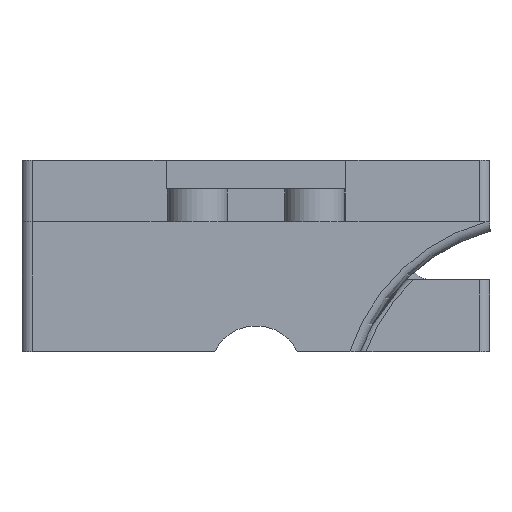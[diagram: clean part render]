
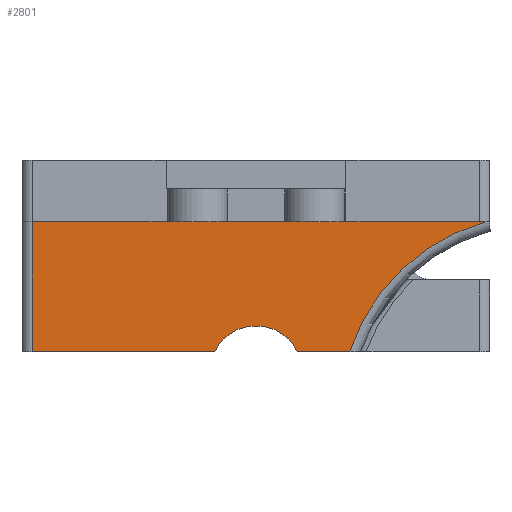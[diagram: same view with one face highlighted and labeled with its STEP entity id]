
A CAD part, front view. The second image highlights one B-rep face of the part: STEP entity #2801.
In plain terms, the highlighted planar face has unit normal (0, -1, 0).
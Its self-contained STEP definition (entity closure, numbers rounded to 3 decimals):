
#76 = CARTESIAN_POINT ( 'NONE',  ( 0., -136.688, -1.984 ) ) ;
#142 = VERTEX_POINT ( 'NONE', #2056 ) ;
#214 = CIRCLE ( 'NONE', #619, 4.5 ) ;
#240 = VERTEX_POINT ( 'NONE', #1787 ) ;
#320 = VERTEX_POINT ( 'NONE', #1855 ) ;
#324 = DIRECTION ( 'NONE',  ( 0., 1., 0. ) ) ;
#399 = EDGE_CURVE ( 'NONE', #240, #3165, #1597, .T. ) ;
#471 = DIRECTION ( 'NONE',  ( -1., 0., 0. ) ) ;
#597 = LINE ( 'NONE', #1646, #3592 ) ;
#619 = AXIS2_PLACEMENT_3D ( 'NONE', #76, #2920, #939 ) ;
#664 = LINE ( 'NONE', #2077, #1776 ) ;
#682 = CARTESIAN_POINT ( 'NONE',  ( 4.039, -136.688, 0. ) ) ;
#707 = EDGE_CURVE ( 'NONE', #320, #1121, #597, .T. ) ;
#739 = CIRCLE ( 'NONE', #3743, 19.5 ) ;
#939 = DIRECTION ( 'NONE',  ( -1., 0., 0. ) ) ;
#995 = CARTESIAN_POINT ( 'NONE',  ( -21.9, -136.688, 12.716 ) ) ;
#1029 = EDGE_CURVE ( 'NONE', #240, #320, #739, .T. ) ;
#1097 = CARTESIAN_POINT ( 'NONE',  ( 43.3, -136.688, 12.716 ) ) ;
#1121 = VERTEX_POINT ( 'NONE', #995 ) ;
#1152 = CARTESIAN_POINT ( 'NONE',  ( -21.9, -136.688, 12.716 ) ) ;
#1359 = DIRECTION ( 'NONE',  ( 0., 1., 0. ) ) ;
#1597 = LINE ( 'NONE', #3641, #2612 ) ;
#1646 = CARTESIAN_POINT ( 'NONE',  ( 43.3, -136.688, 12.716 ) ) ;
#1660 = ORIENTED_EDGE ( 'NONE', *, *, #707, .T. ) ;
#1731 = DIRECTION ( 'NONE',  ( 0., 0., -1. ) ) ;
#1776 = VECTOR ( 'NONE', #2334, 1000. ) ;
#1787 = CARTESIAN_POINT ( 'NONE',  ( 9.174, -136.688, 0. ) ) ;
#1836 = CARTESIAN_POINT ( 'NONE',  ( -21.9, -136.688, 0. ) ) ;
#1854 = EDGE_CURVE ( 'NONE', #142, #2315, #664, .T. ) ;
#1855 = CARTESIAN_POINT ( 'NONE',  ( 22.574, -136.688, 12.716 ) ) ;
#1969 = PLANE ( 'NONE',  #1984 ) ;
#1984 = AXIS2_PLACEMENT_3D ( 'NONE', #1097, #1359, #3112 ) ;
#2030 = CARTESIAN_POINT ( 'NONE',  ( 27.696, -136.688, -6.099 ) ) ;
#2056 = CARTESIAN_POINT ( 'NONE',  ( -4.039, -136.688, 0. ) ) ;
#2077 = CARTESIAN_POINT ( 'NONE',  ( 43.3, -136.688, 0. ) ) ;
#2216 = ORIENTED_EDGE ( 'NONE', *, *, #3337, .T. ) ;
#2315 = VERTEX_POINT ( 'NONE', #1836 ) ;
#2334 = DIRECTION ( 'NONE',  ( -1., 0., 0. ) ) ;
#2428 = LINE ( 'NONE', #1152, #3297 ) ;
#2443 = ORIENTED_EDGE ( 'NONE', *, *, #399, .F. ) ;
#2464 = ORIENTED_EDGE ( 'NONE', *, *, #3547, .F. ) ;
#2544 = ORIENTED_EDGE ( 'NONE', *, *, #1029, .T. ) ;
#2612 = VECTOR ( 'NONE', #471, 1000. ) ;
#2671 = EDGE_LOOP ( 'NONE', ( #2443, #2544, #1660, #2216, #3456, #2464 ) ) ;
#2801 = ADVANCED_FACE ( 'NONE', ( #3361 ), #1969, .F. ) ;
#2916 = DIRECTION ( 'NONE',  ( -1., 0., 0. ) ) ;
#2920 = DIRECTION ( 'NONE',  ( 0., -1., 0. ) ) ;
#3112 = DIRECTION ( 'NONE',  ( -1., 0., 0. ) ) ;
#3165 = VERTEX_POINT ( 'NONE', #682 ) ;
#3297 = VECTOR ( 'NONE', #1731, 1000. ) ;
#3327 = DIRECTION ( 'NONE',  ( -1., 0., 0. ) ) ;
#3337 = EDGE_CURVE ( 'NONE', #1121, #2315, #2428, .T. ) ;
#3361 = FACE_OUTER_BOUND ( 'NONE', #2671, .T. ) ;
#3456 = ORIENTED_EDGE ( 'NONE', *, *, #1854, .F. ) ;
#3547 = EDGE_CURVE ( 'NONE', #3165, #142, #214, .T. ) ;
#3592 = VECTOR ( 'NONE', #3327, 1000. ) ;
#3641 = CARTESIAN_POINT ( 'NONE',  ( 43.3, -136.688, 0. ) ) ;
#3743 = AXIS2_PLACEMENT_3D ( 'NONE', #2030, #324, #2916 ) ;
